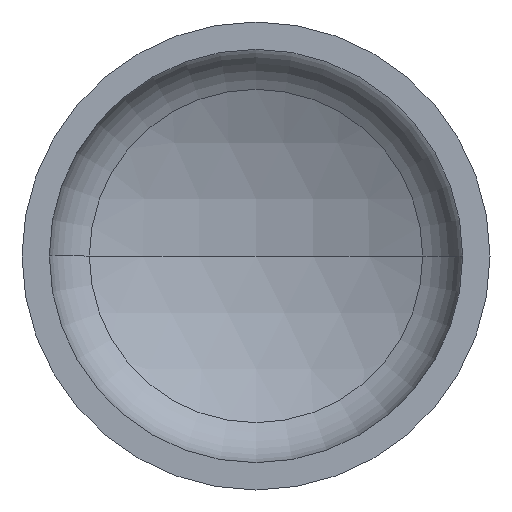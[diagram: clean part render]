
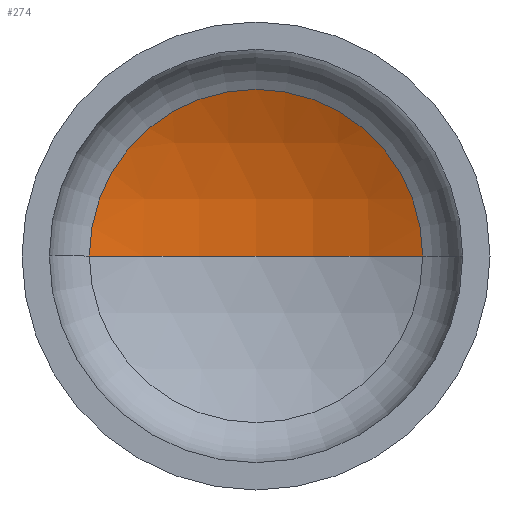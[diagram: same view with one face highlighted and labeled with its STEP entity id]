
A CAD part, front view. The second image highlights one B-rep face of the part: STEP entity #274.
In plain terms, the highlighted spherical face has radius 960 mm.
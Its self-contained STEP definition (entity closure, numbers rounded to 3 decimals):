
#2 = AXIS2_PLACEMENT_3D ( 'NONE', #223, #390, #246 ) ;
#8 = AXIS2_PLACEMENT_3D ( 'NONE', #93, #337, #380 ) ;
#11 = EDGE_LOOP ( 'NONE', ( #118, #88, #83 ) ) ;
#14 = AXIS2_PLACEMENT_3D ( 'NONE', #238, #367, #172 ) ;
#20 = VERTEX_POINT ( 'NONE', #296 ) ;
#43 = AXIS2_PLACEMENT_3D ( 'NONE', #188, #305, #205 ) ;
#83 = ORIENTED_EDGE ( 'NONE', *, *, #331, .T. ) ;
#88 = ORIENTED_EDGE ( 'NONE', *, *, #363, .T. ) ;
#93 = CARTESIAN_POINT ( 'NONE',  ( 0., -573.974, 0. ) ) ;
#103 = VERTEX_POINT ( 'NONE', #203 ) ;
#118 = ORIENTED_EDGE ( 'NONE', *, *, #349, .F. ) ;
#151 = SPHERICAL_SURFACE ( 'NONE', #43, 960. ) ;
#172 = DIRECTION ( 'NONE',  ( 1., 0., 0. ) ) ;
#177 = CIRCLE ( 'NONE', #2, 960. ) ;
#185 = CIRCLE ( 'NONE', #8, 960. ) ;
#188 = CARTESIAN_POINT ( 'NONE',  ( 0., -573.974, 0. ) ) ;
#203 = CARTESIAN_POINT ( 'NONE',  ( 0., 386.026, 0. ) ) ;
#205 = DIRECTION ( 'NONE',  ( -1., 0., 0. ) ) ;
#223 = CARTESIAN_POINT ( 'NONE',  ( 0., -573.974, 0. ) ) ;
#238 = CARTESIAN_POINT ( 'NONE',  ( 0., 285.658, 0. ) ) ;
#246 = DIRECTION ( 'NONE',  ( -1., 0., 0. ) ) ;
#274 = ADVANCED_FACE ( 'NONE', ( #405 ), #151, .F. ) ;
#296 = CARTESIAN_POINT ( 'NONE',  ( 427.355, 285.658, 0. ) ) ;
#305 = DIRECTION ( 'NONE',  ( 0., 0., -1. ) ) ;
#331 = EDGE_CURVE ( 'NONE', #20, #333, #379, .T. ) ;
#333 = VERTEX_POINT ( 'NONE', #382 ) ;
#337 = DIRECTION ( 'NONE',  ( 0., 0., 1. ) ) ;
#349 = EDGE_CURVE ( 'NONE', #103, #333, #185, .T. ) ;
#363 = EDGE_CURVE ( 'NONE', #103, #20, #177, .T. ) ;
#367 = DIRECTION ( 'NONE',  ( 0., -1., 0. ) ) ;
#379 = CIRCLE ( 'NONE', #14, 427.355 ) ;
#380 = DIRECTION ( 'NONE',  ( 1., 0., 0. ) ) ;
#382 = CARTESIAN_POINT ( 'NONE',  ( -427.355, 285.658, 0. ) ) ;
#390 = DIRECTION ( 'NONE',  ( 0., 0., -1. ) ) ;
#405 = FACE_OUTER_BOUND ( 'NONE', #11, .T. ) ;
